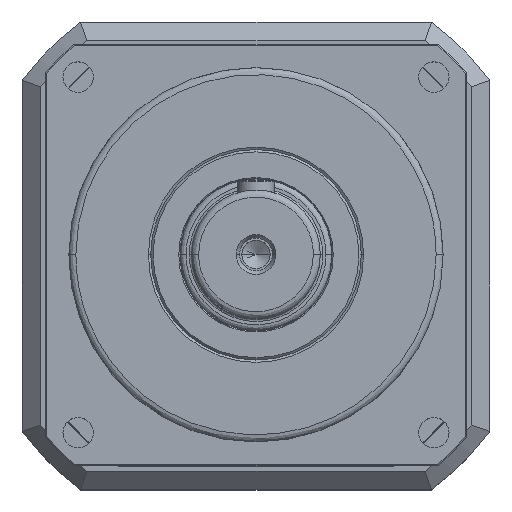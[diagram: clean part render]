
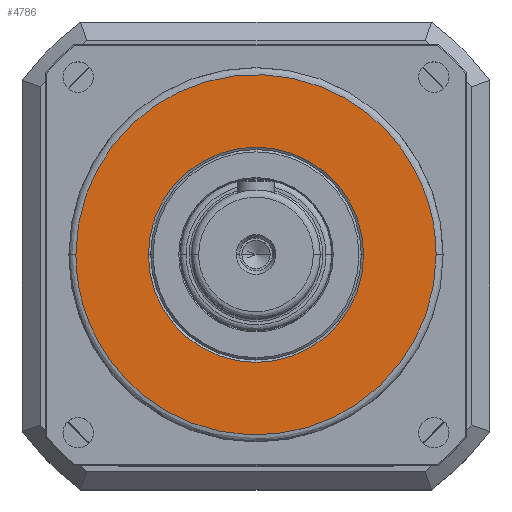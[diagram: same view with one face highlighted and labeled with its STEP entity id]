
A CAD part, top view. The second image highlights one B-rep face of the part: STEP entity #4786.
In plain terms, the highlighted planar face has unit normal (0, 0, 1).
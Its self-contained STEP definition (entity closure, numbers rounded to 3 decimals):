
#146 = CARTESIAN_POINT ( 'NONE',  ( -77., 0., 20. ) ) ;
#332 = CARTESIAN_POINT ( 'NONE',  ( -77., 154., 20. ) ) ;
#335 = CARTESIAN_POINT ( 'NONE',  ( 77., 154., 20. ) ) ;
#388 = CARTESIAN_POINT ( 'NONE',  ( 77., 0., 20. ) ) ;
#899 =( BOUNDED_CURVE ( )  B_SPLINE_CURVE ( 3, ( #13376, #13431, #8104, #8129 ),
 .UNSPECIFIED., .F., .F. ) 
 B_SPLINE_CURVE_WITH_KNOTS ( ( 4, 4 ),
 ( 0., 1. ),
 .UNSPECIFIED. ) 
 CURVE ( )  GEOMETRIC_REPRESENTATION_ITEM ( )  RATIONAL_B_SPLINE_CURVE ( ( 1., 0.333, 0.333, 1. ) ) 
 REPRESENTATION_ITEM ( '' )  );
#1475 = CARTESIAN_POINT ( 'NONE',  ( -77., 0., 20. ) ) ;
#1765 = CARTESIAN_POINT ( 'NONE',  ( 77., 0., 20. ) ) ;
#2197 = CARTESIAN_POINT ( 'NONE',  ( 0., 0., 20. ) ) ;
#2405 = VERTEX_POINT ( 'NONE', #1475 ) ;
#2411 = DIRECTION ( 'NONE',  ( 0., 0., -1. ) ) ;
#2496 = DIRECTION ( 'NONE',  ( 1., 0., 0. ) ) ;
#2498 = DIRECTION ( 'NONE',  ( 0., 0., -1. ) ) ;
#2762 = DIRECTION ( 'NONE',  ( 1., 0., 0. ) ) ;
#2783 = DIRECTION ( 'NONE',  ( 0., 0., 1. ) ) ;
#2839 = PLANE ( 'NONE',  #22132 ) ;
#3137 = CARTESIAN_POINT ( 'NONE',  ( 0., 0., 20. ) ) ;
#3426 = CARTESIAN_POINT ( 'NONE',  ( -46., 0., 20. ) ) ;
#4786 = ADVANCED_FACE ( 'NONE', ( #18436, #18460 ), #2839, .T. ) ;
#5090 = EDGE_LOOP ( 'NONE', ( #7896, #23273 ) ) ;
#6188 = CIRCLE ( 'NONE', #23216, 46. ) ;
#6324 = EDGE_CURVE ( 'NONE', #14148, #13085, #7711, .T. ) ;
#7711 = CIRCLE ( 'NONE', #17140, 46. ) ;
#7896 = ORIENTED_EDGE ( 'NONE', *, *, #9219, .F. ) ;
#8104 = CARTESIAN_POINT ( 'NONE',  ( -77., -154., 20. ) ) ;
#8129 = CARTESIAN_POINT ( 'NONE',  ( -77., 0., 20. ) ) ;
#9219 = EDGE_CURVE ( 'NONE', #2405, #11358, #22697, .T. ) ;
#11358 = VERTEX_POINT ( 'NONE', #1765 ) ;
#13085 = VERTEX_POINT ( 'NONE', #22380 ) ;
#13376 = CARTESIAN_POINT ( 'NONE',  ( 77., 0., 20. ) ) ;
#13431 = CARTESIAN_POINT ( 'NONE',  ( 77., -154., 20. ) ) ;
#13531 = ORIENTED_EDGE ( 'NONE', *, *, #6324, .T. ) ;
#14148 = VERTEX_POINT ( 'NONE', #3426 ) ;
#14638 = EDGE_LOOP ( 'NONE', ( #23003, #13531 ) ) ;
#15675 = DIRECTION ( 'NONE',  ( 1., 0., 0. ) ) ;
#17140 = AXIS2_PLACEMENT_3D ( 'NONE', #21539, #2498, #15675 ) ;
#18436 = FACE_OUTER_BOUND ( 'NONE', #5090, .T. ) ;
#18460 = FACE_BOUND ( 'NONE', #14638, .T. ) ;
#19844 = EDGE_CURVE ( 'NONE', #13085, #14148, #6188, .T. ) ;
#21207 = EDGE_CURVE ( 'NONE', #11358, #2405, #899, .T. ) ;
#21539 = CARTESIAN_POINT ( 'NONE',  ( 0., 0., 20. ) ) ;
#22132 = AXIS2_PLACEMENT_3D ( 'NONE', #3137, #2783, #2762 ) ;
#22380 = CARTESIAN_POINT ( 'NONE',  ( 46., 0., 20. ) ) ;
#22697 =( BOUNDED_CURVE ( )  B_SPLINE_CURVE ( 3, ( #146, #332, #335, #388 ),
 .UNSPECIFIED., .F., .F. ) 
 B_SPLINE_CURVE_WITH_KNOTS ( ( 4, 4 ),
 ( 0., 1. ),
 .UNSPECIFIED. ) 
 CURVE ( )  GEOMETRIC_REPRESENTATION_ITEM ( )  RATIONAL_B_SPLINE_CURVE ( ( 1., 0.333, 0.333, 1. ) ) 
 REPRESENTATION_ITEM ( '' )  );
#23003 = ORIENTED_EDGE ( 'NONE', *, *, #19844, .T. ) ;
#23216 = AXIS2_PLACEMENT_3D ( 'NONE', #2197, #2411, #2496 ) ;
#23273 = ORIENTED_EDGE ( 'NONE', *, *, #21207, .F. ) ;
